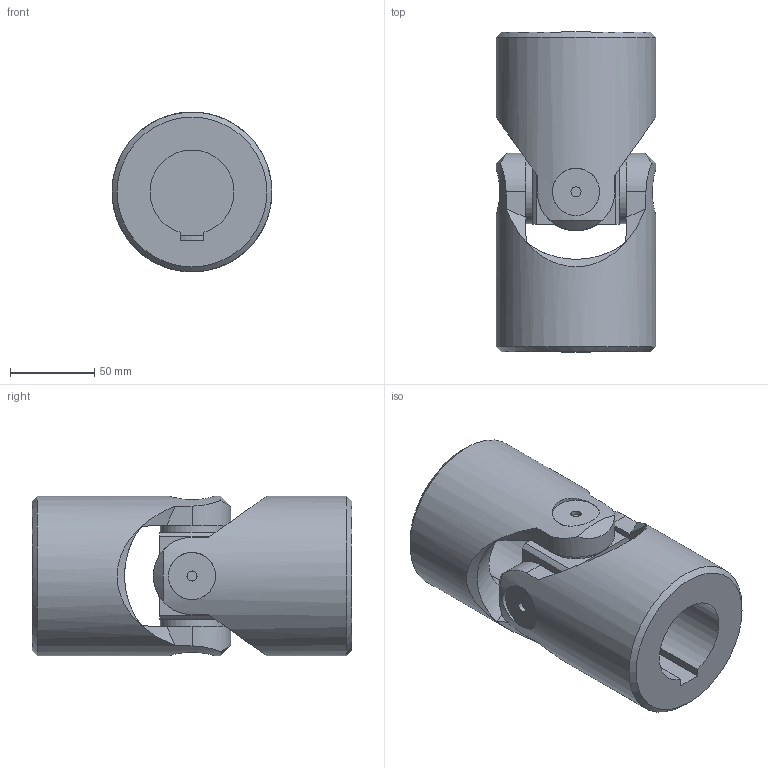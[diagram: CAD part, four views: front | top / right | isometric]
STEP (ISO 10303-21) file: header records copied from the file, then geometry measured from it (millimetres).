
FILE_DESCRIPTION(/* description */ ('EXTENSIBLE TRANSIMISSIONS Series G DIN 808 -2-'),/* implementation_level */ '2;1');
FILE_NAME(/* name */ '\\SRV2016\Societa\Stefano\Disegni 3D\Dis. Clienti\0000Catalogo 3D\01Singoli G-GB\9G-1C_SG0S501C.stp',/* time_stamp */ '2021-11-10T13:46:15+01:00',/* author */ ('acquisti'),/* organization */ ('MARIOFERRI'),/* preprocessor_version */ 'ST-DEVELOPER v15.6',/* originating_system */ 'Autodesk Inventor 2015',/* authorisation */ '');
FILE_SCHEMA (('AUTOMOTIVE_DESIGN { 1 0 10303 214 3 1 1 }'));
Length unit declared in the file: millimetre
Products named in the file (4): 9G SFE; 9G MOS; 9G MOC; Assieme1
Assembly tree (3 placements, depth 2):
  Assieme1
    9G SFE
    9G MOS
    9G MOC
Bounding box: 95 x 190 x 95 mm (x, y, z)
Volume: 851581.6 mm3; surface area: 113774.5 mm2
Topology: 3 solids, 3 shells, 83 faces, 205 edges, 140 vertices
Faces by surface type: plane 39, cylinder 26, cone 16, torus 2
Full cylindrical faces by diameter (mm): 6 x2, 7.494 x2, 28 x4, 38 x4, 50 x1, 56 x1, 95 x2
Entity records: 2965 total; most frequent: CARTESIAN_POINT 1086, DIRECTION 365, ORIENTED_EDGE 358, EDGE_CURVE 179, AXIS2_PLACEMENT_3D 158, VERTEX_POINT 133, EDGE_LOOP 118, FACE_OUTER_BOUND 83
